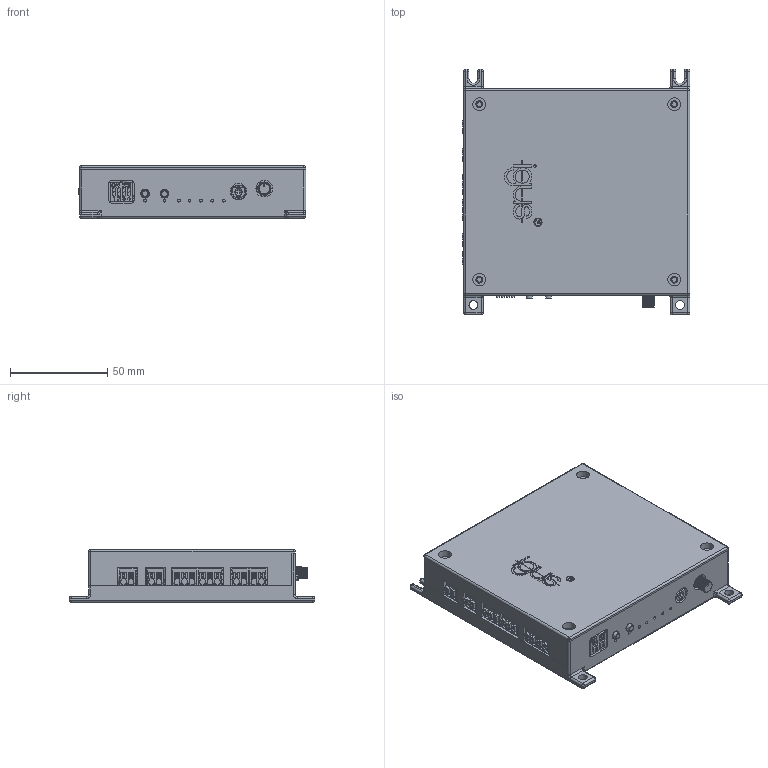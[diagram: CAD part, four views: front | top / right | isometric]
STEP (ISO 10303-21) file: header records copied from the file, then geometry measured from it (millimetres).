
FILE_DESCRIPTION(/* description */ ('Gehäusehälfte, unten'),/* implementation_level */ '2;1');
FILE_NAME(/* name */ 'I:\Gleitlager\Konstruktion\Fabian\Neuentwicklung\#2017\Gehäuse\Spritzguss\DLE-DCCON.stp',/* time_stamp */ '2018-03-20T06:24:28+01:00',/* author */ ('fkleine'),/* organization */ (''),/* preprocessor_version */ 'ST-DEVELOPER v16.1',/* originating_system */ 'Autodesk Inventor 2016',/* authorisation */ '');
FILE_SCHEMA (('AUTOMOTIVE_DESIGN { 1 0 10303 214 3 1 1 }'));
Products named in the file (76): DLE-DCCON-02; DLE-DCCON-01; Board; 6190xx11121_PIN; 04; 61900411121; J1; LSF-SMT3.81_2_90_3.5_SW_1824620000; X12; X8; LSF-SMT3.81_3_90_3.5_SW_1824630000; X6; X5; X1; Terminal_down; Terminal_up; Actuator; Cover_04; Base_04; Accessory_04; 418217270904A; S4; User_Library-Cap-EL(8x11_5-3_5); C36; User_Library-Fuse_Leg_2009; User_Library-Fusivel-1; F1; User_Library-CE_R200_D400_H800; User_Library-CE_R200_D400_H800_liegend#; C20; C19; Kern; Kern_1; Pin; WE-TI_Typ_L; L1; User_Library-TO-92_Str_Extruded; User_Library-TO-92_Str_547225856; User_Library-TO-92_Str_Open_CASCADE_STEP_translator_6.2_1.1; User_Library-TO-92_Str_BODY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
Assembly tree (107 placements, depth 9):
  DLE-DCCON
    DLE-DCCON-02
    DLE-DCCON-01
    #DL1003_V1.0_SIMPLE
      Board
      J1
        61900411121
          6190xx11121_PIN  x4
          04
      X12
        LSF-SMT3.81_2_90_3.5_SW_1824620000
      X8
        LSF-SMT3.81_2_90_3.5_SW_1824620000
      X6
        LSF-SMT3.81_3_90_3.5_SW_1824630000
      X5
        LSF-SMT3.81_3_90_3.5_SW_1824630000
      X1
        LSF-SMT3.81_2_90_3.5_SW_1824620000
      S4
        418217270904A
          Terminal_down  x4
          Terminal_up  x4
          Actuator  x4
          Cover_04
          Base_04
          Accessory_04
      C36
        User_Library-Cap-EL(8x11_5-3_5)
      F1
        User_Library-Fuse_Leg_2009  x2
        User_Library-Fusivel-1
      C20
        User_Library-CE_R200_D400_H800_liegend#
          User_Library-CE_R200_D400_H800
      C19
        User_Library-CE_R200_D400_H800_liegend#
          User_Library-CE_R200_D400_H800
      L1
        WE-TI_Typ_L
          Kern
          Kern_1
          Pin  x2
      U6
        User_Library-TO-92_Str
          User_Library-TO-92_Str_Free-Models
            User_Library-TO-92_Str_BODY
              User_Library-TO-92_Str_Open_CASCADE_STEP_translator_6.2_1.1
                User_Library-TO-92_Str_547225856
                  User_Library-TO-92_Str_Extruded
            User_Library-TO-92_Str_577959568  x3
              User_Library-TO-92_Str_Extruded_2
      X2
        61200621621_1
          61200621621
          6120xx21621_PIN  x6
      R13
        RK09K1110-20
      R15
        3306K001
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Bounding box: 116.73 x 126 x 27 mm (x, y, z)
Volume: 145261.4 mm3; surface area: 109653.3 mm2
Topology: 101 solids, 102 shells, 5655 faces, 15133 edges, 9903 vertices
Faces by surface type: plane 4224, cylinder 1014, bspline 256, torus 89, sphere 55, cone 17
Full cylindrical faces by diameter (mm): 0.27 x4, 0.3 x1, 0.5 x2, 0.6 x8, 0.7 x6, 0.8 x8, 0.85 x14, 1.19 x1, 1.2 x16, 1.27 x1, 1.288 x2, 1.3 x2, 1.5 x7, 1.6 x2, 1.64 x2, 1.651 x1, 1.727 x1, 1.778 x1, 2.159 x1, 2.5 x4, 3.5 x6, 3.56 x4, 4 x1, 4.5 x4, 5 x1, 5.2 x2, 5.4 x3, 6 x4, 6.05 x1, 6.5 x4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
Entity records: 138017 total; most frequent: CARTESIAN_POINT 44924, ORIENTED_EDGE 19072, DIRECTION 17731, EDGE_CURVE 9536, LINE 7245, VECTOR 7245, VERTEX_POINT 6306, AXIS2_PLACEMENT_3D 5243
